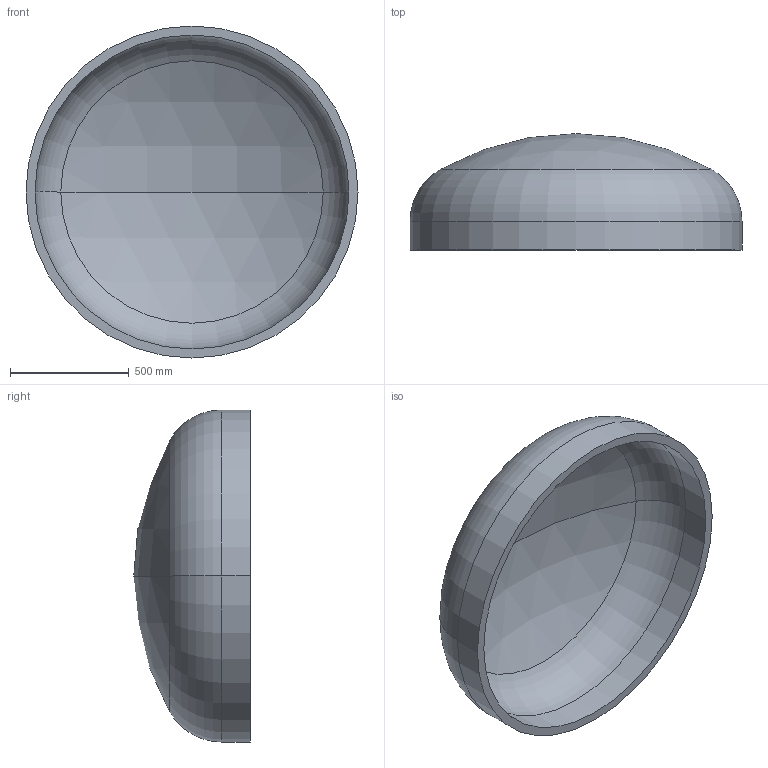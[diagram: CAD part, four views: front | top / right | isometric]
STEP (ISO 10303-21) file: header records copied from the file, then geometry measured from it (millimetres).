
FILE_DESCRIPTION (( 'STEP AP203' ), '1' );
FILE_NAME ('DIN 28013 Korbbogenform_-_Boden DIN 28013 - 1400 x 120 - I - s=38.step', '2016-07-01T10:16:47', ( '' ), ( '' ), 'SwSTEP 2.0', 'SolidWorks 2013', '' );
FILE_SCHEMA (( 'CONFIG_CONTROL_DESIGN' ));
Length unit declared in the file: millimetre
Products named in the file (1): DIN 28013 Korbbogenform_-_Boden DIN 28013 - 1400 x 120 - I - s=38
Bounding box: 1400 x 491.1 x 1400 mm (x, y, z)
Volume: 97655884.1 mm3; surface area: 5305402.5 mm2
Topology: 1 solids, 1 shells, 13 faces, 24 edges, 14 vertices
Faces by surface type: torus 4, cylinder 4, sphere 4, plane 1
Entity records: 407 total; most frequent: DIRECTION 72, CARTESIAN_POINT 52, ORIENTED_EDGE 48, AXIS2_PLACEMENT_3D 34, EDGE_CURVE 24, CIRCLE 20, VERTEX_POINT 14, EDGE_LOOP 14
